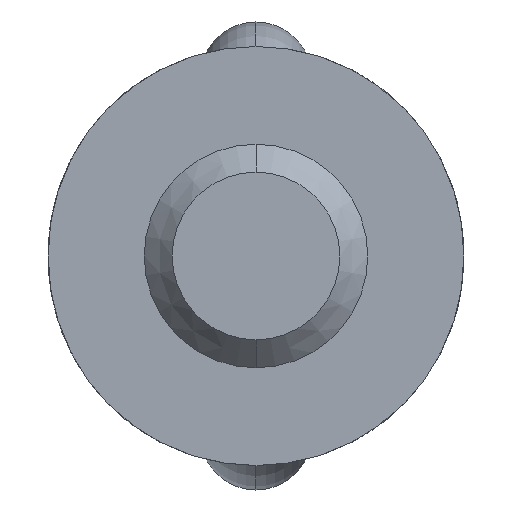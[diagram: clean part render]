
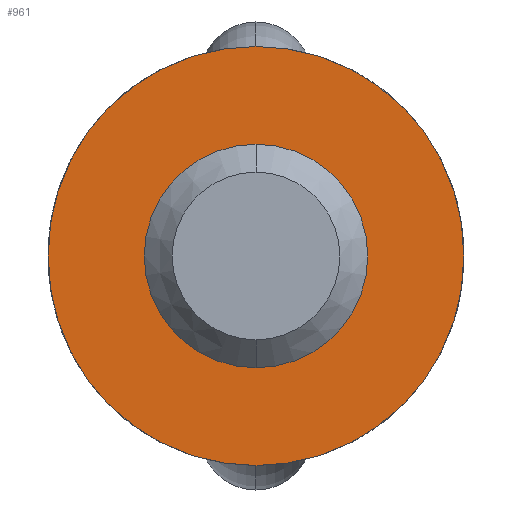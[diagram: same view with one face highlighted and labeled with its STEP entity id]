
A CAD part, front view. The second image highlights one B-rep face of the part: STEP entity #961.
In plain terms, the highlighted planar face has unit normal (0, -1, 0).
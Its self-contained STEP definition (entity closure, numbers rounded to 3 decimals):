
#961=ADVANCED_FACE('',(#1982,#1983),#1984,.F.);
#1982=FACE_OUTER_BOUND('',#9371,.T.);
#1983=FACE_BOUND('',#9372,.T.);
#1984=PLANE('',#9373);
#9371=EDGE_LOOP('',(#13808,#13809,#13810,#13811));
#9372=EDGE_LOOP('',(#13812,#13813));
#9373=AXIS2_PLACEMENT_3D('',#13814,#13815,#13816);
#13808=ORIENTED_EDGE('',*,*,#15498,.F.);
#13809=ORIENTED_EDGE('',*,*,#15444,.T.);
#13810=ORIENTED_EDGE('',*,*,#15499,.T.);
#13811=ORIENTED_EDGE('',*,*,#15434,.F.);
#13812=ORIENTED_EDGE('',*,*,#15494,.F.);
#13813=ORIENTED_EDGE('',*,*,#15492,.F.);
#13814=CARTESIAN_POINT('',(0.0,-109.5,0.0));
#13815=DIRECTION('',(0.0,1.0,0.0));
#13816=DIRECTION('',(1.0,0.0,-0.0));
#15434=EDGE_CURVE('',#17277,#17280,#17281,.T.);
#15444=EDGE_CURVE('',#17299,#17296,#17300,.T.);
#15492=EDGE_CURVE('',#17378,#17376,#17380,.T.);
#15494=EDGE_CURVE('',#17376,#17378,#17382,.T.);
#15498=EDGE_CURVE('',#17299,#17277,#17386,.T.);
#15499=EDGE_CURVE('',#17296,#17280,#17387,.T.);
#17277=VERTEX_POINT('',#25453);
#17280=VERTEX_POINT('',#25457);
#17281=CIRCLE('',#25458,59.491);
#17296=VERTEX_POINT('',#25633);
#17299=VERTEX_POINT('',#25637);
#17300=CIRCLE('',#25638,59.491);
#17376=VERTEX_POINT('',#25962);
#17378=VERTEX_POINT('',#25964);
#17380=CIRCLE('',#25966,31.85);
#17382=CIRCLE('',#25968,31.85);
#17386=CIRCLE('',#25972,59.491);
#17387=CIRCLE('',#25973,59.491);
#25453=CARTESIAN_POINT('',(0.,-109.5,-60.));
#25457=CARTESIAN_POINT('',(-59.489,-109.5,0.0));
#25458=AXIS2_PLACEMENT_3D('',#29751,#29752,#29753);
#25633=CARTESIAN_POINT('',(0.,-109.5,60.));
#25637=CARTESIAN_POINT('',(59.489,-109.5,0.0));
#25638=AXIS2_PLACEMENT_3D('',#29760,#29761,#29762);
#25962=CARTESIAN_POINT('',(0.,-109.5,31.85));
#25964=CARTESIAN_POINT('',(0.,-109.5,-31.85));
#25966=AXIS2_PLACEMENT_3D('',#29812,#29813,#29814);
#25968=AXIS2_PLACEMENT_3D('',#29815,#29816,#29817);
#25972=AXIS2_PLACEMENT_3D('',#29821,#29822,#29823);
#25973=AXIS2_PLACEMENT_3D('',#29824,#29825,#29826);
#29751=CARTESIAN_POINT('',(0.0,-109.5,-0.509));
#29752=DIRECTION('',(0.0,1.0,0.0));
#29753=DIRECTION('',(0.0,0.0,-1.0));
#29760=CARTESIAN_POINT('',(0.0,-109.5,0.509));
#29761=DIRECTION('',(0.0,-1.0,0.0));
#29762=DIRECTION('',(0.0,0.0,1.0));
#29812=CARTESIAN_POINT('',(0.0,-109.5,0.0));
#29813=DIRECTION('',(0.0,-1.0,0.0));
#29814=DIRECTION('',(0.,0.0,-1.0));
#29815=CARTESIAN_POINT('',(0.0,-109.5,0.0));
#29816=DIRECTION('',(0.0,-1.0,0.0));
#29817=DIRECTION('',(0.,0.0,-1.0));
#29821=CARTESIAN_POINT('',(0.0,-109.5,-0.509));
#29822=DIRECTION('',(0.0,1.0,0.0));
#29823=DIRECTION('',(0.0,0.0,-1.0));
#29824=CARTESIAN_POINT('',(0.0,-109.5,0.509));
#29825=DIRECTION('',(0.0,-1.0,0.0));
#29826=DIRECTION('',(0.0,0.0,1.0));
